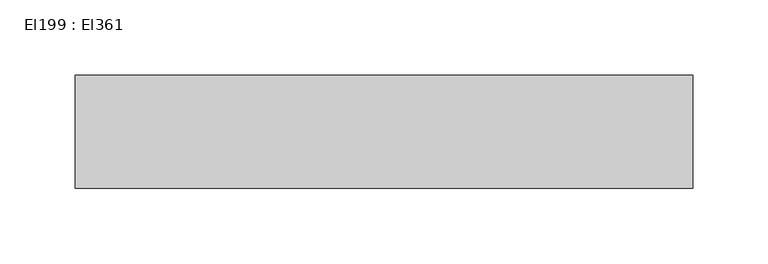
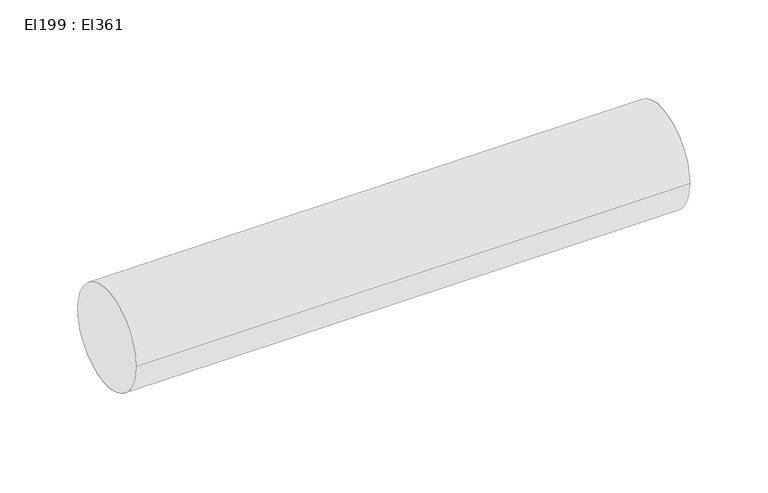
"""IFC4 building model written with IfcOpenShell, lengths in millimetres: cable carrier segment geometry, El199 : El361."""

from ifc_helpers import new_model, si_unit, point, frame, frame_2d, origin, place, context, project, spatial, circle_curve, trimmed, segment, composite_curve, outline, extrude, source, transform, mapped, element, save


def el199_el361_34302463(model_context):
    return source(origin(), model_context, "Body", "SweptSolid", [
        extrude(outline(composite_curve([segment(trimmed(circle_curve(frame_2d((4616.0121745, 2700.0)), 37.5), [point((4578.5121745, 2700.0))], [point((4653.5121745, 2700.0))], False, "CARTESIAN"), True, "CONTINUOUS"), segment(trimmed(circle_curve(frame_2d((4616.0121745, 2700.0)), 37.5), [point((4653.5121745, 2700.0))], [point((4578.5121745, 2700.0))], False, "CARTESIAN"), True, "CONTINUOUS")], self_intersect=False)), frame((22607.3386511, 0.0, 0.0), z_axis=(1.0, 0.0, 0.0), x_axis=(0.0, 1.0, 0.0)), (0.0, 0.0, 1.0), 410.072),
    ])


if __name__ == "__main__":
    model = new_model("IFC4")
    model_context = context("Model", 3, world=origin())
    ifc_project = project(units=[si_unit("LENGTHUNIT", "METRE", prefix="MILLI")], contexts=[model_context])
    site = spatial("IfcSite", under=ifc_project)
    building = spatial("IfcBuilding", under=site)
    placement = place(None, origin())
    el199_el361_shape = el199_el361_34302463(model_context)
    element("IfcCableCarrierSegment", 1, ObjectType="El199 : El361", at=placement, inside=building, context=model_context, shape_type="MappedRepresentation", body=[
        mapped(el199_el361_shape, transform((0.0, 0.0, 0.0), x_axis=(1.0, 0.0, 0.0), y_axis=(0.0, 1.0, 0.0), z_axis=(0.0, 0.0, 1.0))),
    ])
    save(model, "model.ifc")
